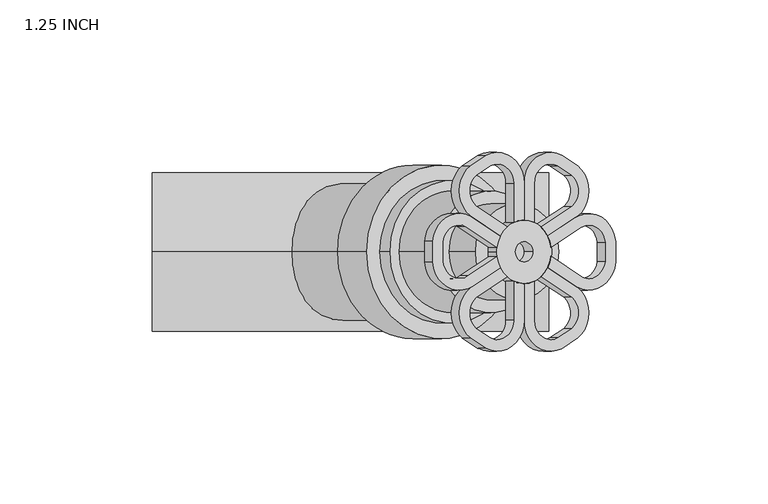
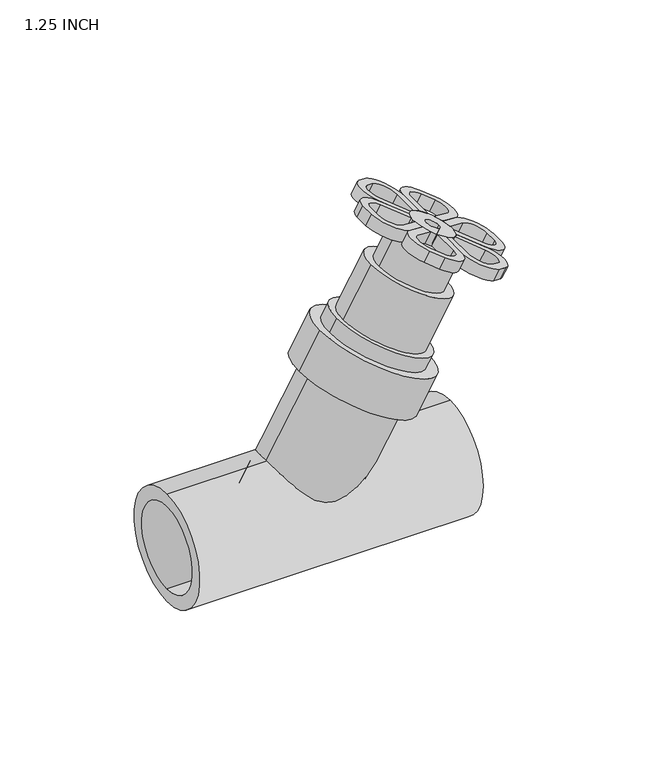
"""IFC4 building model written with IfcOpenShell, lengths in millimetres: valve geometry, Aquatherm - Inclined Check Valve without drain : 1.25 INCH."""

from ifc_helpers import new_model, si_unit, point, frame, frame_2d, origin, origin_2d, place, context, project, spatial, polyline, circle_curve, trimmed, segment, composite_curve, outline, extrude, source, transform, mapped, element, save
from ifc_brep_helpers import plane_surface, cylinder_surface, revolved_surface, advanced_brep


def valve_1_25_inch_3d7ded2d(model_context):
    return source(origin(), model_context, "Body", "SolidModel", [
        advanced_brep(
        [(131.4312275, 10.5951948, 100.0426553), (144.564244, 2.812243, 92.4603047), (144.5843625, -4.0695455, 92.4486893), (132.2186595, -12.3087434, 99.5880312), (122.4292614, -5.7824779, 105.2399429), (123.5225816, -2.111949, 104.6087142), (133.7085611, -8.902602, 98.7278362), (141.2862492, -3.6900946, 94.3528559), (141.3022835, 2.4387005, 94.3435985), (133.0810059, 7.295638, 99.0901553), (123.5099846, 0.9149571, 104.6159871), (122.4016894, 4.5755028, 105.2558616), (134.0982275, 10.5951948, 104.6620349), (125.0686894, 4.5755028, 109.8752411), (126.1769846, 0.9149571, 109.2353666), (135.7480059, 7.295638, 103.7095349), (143.9477944, 2.4362397, 98.9753847), (143.968063, -3.691799, 98.9636826), (136.3755611, -8.902602, 103.3472157), (126.1895816, -2.111949, 109.2280937), (125.0962614, -5.7824779, 109.8593224), (134.8856595, -12.3087434, 104.2074107), (147.2365487, -4.0678412, 97.0766215), (147.2527331, 2.8147039, 97.0672775)],
        [
            (0, 1, circle_curve(frame((135.8231929, 1.8112639, 97.5069529), z_axis=(-0.49999999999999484, 0.0, -0.8660254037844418), x_axis=(0.4330127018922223, -0.866025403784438, -0.24999999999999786)), 10.1428098)),
            (1, 2, circle_curve(frame((114.5968937, -0.6194603, 109.7619625), z_axis=(-0.49999999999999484, 0.0, -0.8660254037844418), x_axis=(0.4330127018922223, -0.866025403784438, -0.24999999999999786)), 34.798)),
            (2, 3, circle_curve(frame((135.8288972, -3.0622214, 97.5036596), z_axis=(-0.49999999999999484, 0.0, -0.8660254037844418), x_axis=(0.4330127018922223, -0.866025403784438, -0.24999999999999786)), 10.1428098)),
            (3, 4),
            (4, 5, circle_curve(frame((114.5968937, -0.6194603, 109.7619625), z_axis=(0.49999999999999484, 0.0, 0.8660254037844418), x_axis=(0.41622412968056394, 0.8769321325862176, -0.2403071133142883)), 10.414)),
            (5, 6),
            (6, 7, circle_curve(frame((135.8288972, -3.0622214, 97.5036596), z_axis=(0.49999999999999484, 0.0, 0.8660254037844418), x_axis=(0.4330127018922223, -0.866025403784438, -0.24999999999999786)), 6.3328098)),
            (7, 8, circle_curve(frame((114.5968937, -0.6194603, 109.7619625), z_axis=(0.49999999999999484, 0.0, 0.8660254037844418), x_axis=(0.4330127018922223, -0.866025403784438, -0.24999999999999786)), 30.988)),
            (8, 9, circle_curve(frame((135.8231929, 1.8112639, 97.5069529), z_axis=(0.49999999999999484, 0.0, 0.8660254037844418), x_axis=(0.4330127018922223, -0.866025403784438, -0.24999999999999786)), 6.3328098)),
            (9, 10),
            (10, 11, circle_curve(frame((114.5911894, -0.6314972, 109.7652558), z_axis=(0.49999999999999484, 0.0, 0.8660254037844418), x_axis=(0.4330127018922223, -0.866025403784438, -0.24999999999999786)), 10.414)),
            (11, 0),
            (12, 13),
            (13, 14, circle_curve(frame((117.2581894, -0.6314972, 114.3846353), z_axis=(-0.49999999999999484, 0.0, -0.8660254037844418), x_axis=(0.4330127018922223, -0.866025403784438, -0.24999999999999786)), 10.414)),
            (14, 15),
            (15, 16, circle_curve(frame((138.4901929, 1.8112639, 102.1263324), z_axis=(-0.49999999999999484, 0.0, -0.8660254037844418), x_axis=(0.4330127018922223, -0.866025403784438, -0.24999999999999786)), 6.3328098)),
            (16, 17, circle_curve(frame((117.2638937, -0.6194603, 114.381342), z_axis=(-0.49999999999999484, 0.0, -0.8660254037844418), x_axis=(0.4330127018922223, -0.866025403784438, -0.24999999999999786)), 30.988)),
            (17, 18, circle_curve(frame((138.4958972, -3.0622214, 102.1230391), z_axis=(-0.49999999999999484, 0.0, -0.8660254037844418), x_axis=(0.4330127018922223, -0.866025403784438, -0.24999999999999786)), 6.3328098)),
            (18, 19),
            (19, 20, circle_curve(frame((117.2638937, -0.6194603, 114.381342), z_axis=(-0.49999999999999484, 0.0, -0.8660254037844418), x_axis=(0.41622412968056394, 0.8769321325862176, -0.2403071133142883)), 10.414)),
            (20, 21),
            (21, 22, circle_curve(frame((138.4958972, -3.0622214, 102.1230391), z_axis=(0.49999999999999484, 0.0, 0.8660254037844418), x_axis=(0.4330127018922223, -0.866025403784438, -0.24999999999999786)), 10.1428098)),
            (22, 23, circle_curve(frame((117.2638937, -0.6194603, 114.381342), z_axis=(0.49999999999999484, 0.0, 0.8660254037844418), x_axis=(0.4330127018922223, -0.866025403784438, -0.24999999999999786)), 34.798)),
            (23, 12, circle_curve(frame((138.4901929, 1.8112639, 102.1263324), z_axis=(0.49999999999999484, 0.0, 0.8660254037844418), x_axis=(0.4330127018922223, -0.866025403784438, -0.24999999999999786)), 10.1428098)),
            (11, 13),
            (12, 0),
            (10, 14),
            (9, 15),
            (8, 16),
            (7, 17),
            (6, 18),
            (5, 19),
            (4, 20),
            (3, 21),
            (2, 22),
            (1, 23),
        ],
        [
            plane_surface(frame((140.2151584, -6.9726671, 94.9712505), z_axis=(-0.4999999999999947, 0.0, -0.8660254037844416), x_axis=(-0.7500000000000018, -0.5000000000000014, 0.43301270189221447))),
            plane_surface(frame((142.8821584, -6.9726671, 99.59063), z_axis=(0.4999999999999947, 0.0, 0.8660254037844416), x_axis=(0.7500000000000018, 0.5000000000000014, -0.43301270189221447))),
            plane_surface(frame((122.4016894, 4.5755028, 105.2558616), z_axis=(-0.43301270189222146, 0.8660254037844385, 0.24999999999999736), x_axis=(0.49999999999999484, 0.0, 0.8660254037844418))),
            revolved_surface(polyline([(121.76758372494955, -9.650285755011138, 111.78113538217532), (119.10058367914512, -9.650285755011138, 107.16175579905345)]), (117.2581894, -0.6314972, 114.3846353), (0.49999999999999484, 0.0, 0.8660254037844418)),
            plane_surface(frame((133.0810059, 7.295638, 99.0901553), z_axis=(0.43301270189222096, -0.8660254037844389, -0.24999999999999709), x_axis=(0.49999999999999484, 0.0, 0.8660254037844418))),
            revolved_surface(polyline([(141.23238002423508, -3.6731102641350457, 100.5431300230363), (138.56537998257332, -3.6731102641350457, 95.92375044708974)]), (138.4901929, 1.8112639, 102.1263324), (0.49999999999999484, 0.0, 0.8660254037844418)),
            revolved_surface(polyline([(130.68209130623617, -27.455855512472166, 106.63434200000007), (128.01509130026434, -27.455855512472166, 102.0149624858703)]), (117.2638937, -0.6194603, 114.381342), (0.49999999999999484, 0.0, 0.8660254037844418)),
            revolved_surface(polyline([(141.23808428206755, -8.546595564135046, 100.53983665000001), (138.57108426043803, -8.546595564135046, 95.92045710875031)]), (138.4958972, -3.0622214, 102.1230391), (0.49999999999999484, 0.0, 0.8660254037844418)),
            plane_surface(frame((123.5225816, -2.111949, 104.6087142), z_axis=(0.4330127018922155, 0.8660254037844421, -0.2499999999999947), x_axis=(0.49999999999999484, 0.0, 0.8660254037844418))),
            revolved_surface(polyline([(121.59845179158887, 8.51291092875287, 111.87878373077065), (118.93145178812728, 8.51291092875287, 107.25940422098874)]), (117.2638937, -0.6194603, 114.381342), (0.49999999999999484, 0.0, 0.8660254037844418)),
            plane_surface(frame((132.2186595, -12.3087434, 99.5880312), z_axis=(-0.43301270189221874, -0.8660254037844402, 0.24999999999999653), x_axis=(0.49999999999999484, 0.0, 0.8660254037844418))),
            cylinder_surface(frame((138.4958972, -3.0622214, 102.1230391), z_axis=(-0.49999999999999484, 0.0, -0.8660254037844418), x_axis=(0.4330127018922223, -0.866025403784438, -0.24999999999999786)), 10.1428098),
            cylinder_surface(frame((117.2638937, -0.6194603, 114.381342), z_axis=(-0.49999999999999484, 0.0, -0.8660254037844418), x_axis=(0.4330127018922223, -0.866025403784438, -0.24999999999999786)), 34.798),
            cylinder_surface(frame((138.4901929, 1.8112639, 102.1263324), z_axis=(-0.49999999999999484, 0.0, -0.8660254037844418), x_axis=(0.4330127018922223, -0.866025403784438, -0.24999999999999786)), 10.1428098),
        ],
        [
            (0, [[1, 2, 3, 4, 5, 6, 7, 8, 9, 10, 11, 12]]),
            (1, [[13, 14, 15, 16, 17, 18, 19, 20, 21, 22, 23, 24]]),
            (2, [[-12, 25, -13, 26]]),
            (3, [[-11, 27, -14, -25]]),
            (4, [[-10, 28, -15, -27]]),
            (5, [[-9, 29, -16, -28]]),
            (6, [[-8, 30, -17, -29]]),
            (7, [[-7, 31, -18, -30]]),
            (8, [[-6, 32, -19, -31]]),
            (9, [[-5, 33, -20, -32]]),
            (10, [[-4, 34, -21, -33]]),
            (11, [[-3, 35, -22, -34]]),
            (12, [[-2, 36, -23, -35]]),
            (13, [[-1, -26, -24, -36]]),
        ],
    ),
        advanced_brep(
        [(97.7511514, -11.8581892, 119.4878563), (84.6181349, -4.0752375, 127.0702069), (84.5980164, 2.8065511, 127.0818224), (96.9637194, 11.0457489, 119.9424804), (106.7531175, 4.5194835, 114.2905688), (105.6597973, 0.8489546, 114.9217975), (95.4738178, 7.6396076, 120.8026755), (87.8961297, 2.4271002, 125.1776558), (87.8800953, -3.7016949, 125.1869132), (96.101373, -8.5586324, 120.4403563), (105.6723943, -2.1779516, 114.9145246), (106.7806894, -5.8384972, 114.2746501), (100.4181514, -11.8581892, 124.1072358), (109.4476894, -5.8384972, 118.8940296), (108.3393943, -2.1779516, 119.5339041), (98.768373, -8.5586324, 125.0597358), (90.5685845, -3.6992341, 129.7938859), (90.5483159, 2.4288045, 129.805588), (98.1408178, 7.6396076, 125.422055), (108.3267973, 0.8489546, 119.541177), (109.4201175, 4.5194835, 118.9099483), (99.6307194, 11.0457489, 124.5618599), (87.2798302, 2.8048467, 131.6926491), (87.2636458, -4.0776983, 131.7019932)],
        [
            (0, 1, circle_curve(frame((93.359186, -3.0742583, 122.0235588), z_axis=(-0.49999999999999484, 0.0, -0.8660254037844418), x_axis=(-0.4330127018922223, 0.866025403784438, 0.24999999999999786)), 10.1428098)),
            (1, 2, circle_curve(frame((114.5854852, -0.6435341, 109.7685492), z_axis=(-0.49999999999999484, 0.0, -0.8660254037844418), x_axis=(-0.4330127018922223, 0.866025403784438, 0.24999999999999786)), 34.798)),
            (2, 3, circle_curve(frame((93.3534817, 1.7992269, 122.0268521), z_axis=(-0.49999999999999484, 0.0, -0.8660254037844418), x_axis=(-0.4330127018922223, 0.866025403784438, 0.24999999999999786)), 10.1428098)),
            (3, 4),
            (4, 5, circle_curve(frame((114.5854852, -0.6435341, 109.7685492), z_axis=(0.49999999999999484, 0.0, 0.8660254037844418), x_axis=(-0.41622412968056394, -0.8769321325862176, 0.2403071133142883)), 10.414)),
            (5, 6),
            (6, 7, circle_curve(frame((93.3534817, 1.7992269, 122.0268521), z_axis=(0.49999999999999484, 0.0, 0.8660254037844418), x_axis=(-0.4330127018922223, 0.866025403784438, 0.24999999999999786)), 6.3328098)),
            (7, 8, circle_curve(frame((114.5854852, -0.6435341, 109.7685492), z_axis=(0.49999999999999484, 0.0, 0.8660254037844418), x_axis=(-0.4330127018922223, 0.866025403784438, 0.24999999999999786)), 30.988)),
            (8, 9, circle_curve(frame((93.359186, -3.0742583, 122.0235588), z_axis=(0.49999999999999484, 0.0, 0.8660254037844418), x_axis=(-0.4330127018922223, 0.866025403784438, 0.24999999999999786)), 6.3328098)),
            (9, 10),
            (10, 11, circle_curve(frame((114.5911894, -0.6314972, 109.7652558), z_axis=(0.49999999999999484, 0.0, 0.8660254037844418), x_axis=(-0.4330127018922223, 0.866025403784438, 0.24999999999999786)), 10.414)),
            (11, 0),
            (12, 13),
            (13, 14, circle_curve(frame((117.2581894, -0.6314972, 114.3846353), z_axis=(-0.49999999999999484, 0.0, -0.8660254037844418), x_axis=(-0.4330127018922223, 0.866025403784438, 0.24999999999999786)), 10.414)),
            (14, 15),
            (15, 16, circle_curve(frame((96.026186, -3.0742583, 126.6429383), z_axis=(-0.49999999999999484, 0.0, -0.8660254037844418), x_axis=(-0.4330127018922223, 0.866025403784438, 0.24999999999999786)), 6.3328098)),
            (16, 17, circle_curve(frame((117.2524852, -0.6435341, 114.3879287), z_axis=(-0.49999999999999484, 0.0, -0.8660254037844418), x_axis=(-0.4330127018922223, 0.866025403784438, 0.24999999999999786)), 30.988)),
            (17, 18, circle_curve(frame((96.0204817, 1.7992269, 126.6462316), z_axis=(-0.49999999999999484, 0.0, -0.8660254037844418), x_axis=(-0.4330127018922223, 0.866025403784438, 0.24999999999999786)), 6.3328098)),
            (18, 19),
            (19, 20, circle_curve(frame((117.2524852, -0.6435341, 114.3879287), z_axis=(-0.49999999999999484, 0.0, -0.8660254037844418), x_axis=(-0.41622412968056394, -0.8769321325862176, 0.2403071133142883)), 10.414)),
            (20, 21),
            (21, 22, circle_curve(frame((96.0204817, 1.7992269, 126.6462316), z_axis=(0.49999999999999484, 0.0, 0.8660254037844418), x_axis=(-0.4330127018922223, 0.866025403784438, 0.24999999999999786)), 10.1428098)),
            (22, 23, circle_curve(frame((117.2524852, -0.6435341, 114.3879287), z_axis=(0.49999999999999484, 0.0, 0.8660254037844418), x_axis=(-0.4330127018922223, 0.866025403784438, 0.24999999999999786)), 34.798)),
            (23, 12, circle_curve(frame((96.026186, -3.0742583, 126.6429383), z_axis=(0.49999999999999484, 0.0, 0.8660254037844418), x_axis=(-0.4330127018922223, 0.866025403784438, 0.24999999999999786)), 10.1428098)),
            (0, 12),
            (23, 1),
            (22, 2),
            (21, 3),
            (20, 4),
            (19, 5),
            (18, 6),
            (17, 7),
            (16, 8),
            (15, 9),
            (14, 10),
            (13, 11),
        ],
        [
            plane_surface(frame((88.9672205, 5.7096726, 124.5592612), z_axis=(-0.4999999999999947, 0.0, -0.8660254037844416), x_axis=(0.7500000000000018, 0.5000000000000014, -0.43301270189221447))),
            plane_surface(frame((91.6342205, 5.7096726, 129.1786407), z_axis=(0.4999999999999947, 0.0, 0.8660254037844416), x_axis=(-0.7500000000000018, -0.5000000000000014, 0.43301270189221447))),
            cylinder_surface(frame((96.026186, -3.0742583, 126.6429383), z_axis=(-0.49999999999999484, 0.0, -0.8660254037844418), x_axis=(-0.4330127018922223, 0.866025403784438, 0.24999999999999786)), 10.1428098),
            cylinder_surface(frame((117.2524852, -0.6435341, 114.3879287), z_axis=(-0.49999999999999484, 0.0, -0.8660254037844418), x_axis=(-0.4330127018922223, 0.866025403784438, 0.24999999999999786)), 34.798),
            cylinder_surface(frame((96.0204817, 1.7992269, 126.6462316), z_axis=(-0.49999999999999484, 0.0, -0.8660254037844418), x_axis=(-0.4330127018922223, 0.866025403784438, 0.24999999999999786)), 10.1428098),
            plane_surface(frame((96.9637194, 11.0457489, 119.9424804), z_axis=(0.43301270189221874, 0.8660254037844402, -0.24999999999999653), x_axis=(0.49999999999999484, 0.0, 0.8660254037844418))),
            revolved_surface(polyline([(112.9179271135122, -9.77590532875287, 116.8904869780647), (110.25092711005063, -9.77590532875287, 112.2711074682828)]), (117.2524852, -0.6435341, 114.3879287), (0.49999999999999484, 0.0, 0.8660254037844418)),
            plane_surface(frame((105.6597973, 0.8489546, 114.9217975), z_axis=(-0.43301270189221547, -0.8660254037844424, 0.24999999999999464), x_axis=(0.49999999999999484, 0.0, 0.8660254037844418))),
            revolved_surface(polyline([(93.27829462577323, 7.283601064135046, 128.22943406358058), (90.61129461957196, 7.283601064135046, 123.61005454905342)]), (96.0204817, 1.7992269, 126.6462316), (0.49999999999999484, 0.0, 0.8660254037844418)),
            revolved_surface(polyline([(103.8342875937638, 26.192861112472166, 122.13492869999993), (101.16728757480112, 26.192861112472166, 117.51554916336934)]), (117.2524852, -0.6435341, 114.3879287), (0.49999999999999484, 0.0, 0.8660254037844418)),
            revolved_surface(polyline([(93.28399891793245, 2.410115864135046, 128.22614074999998), (90.61699887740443, 2.410115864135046, 123.60676117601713)]), (96.026186, -3.0742583, 126.6429383), (0.49999999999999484, 0.0, 0.8660254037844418)),
            plane_surface(frame((96.101373, -8.5586324, 120.4403563), z_axis=(-0.43301270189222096, 0.8660254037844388, 0.24999999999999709), x_axis=(0.49999999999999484, 0.0, 0.8660254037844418))),
            revolved_surface(polyline([(112.74879514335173, 8.387291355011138, 116.98813533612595), (110.0817951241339, 8.387291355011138, 112.36875579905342)]), (117.2581894, -0.6314972, 114.3846353), (0.49999999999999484, 0.0, 0.8660254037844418)),
            plane_surface(frame((106.7806894, -5.8384972, 114.2746501), z_axis=(0.43301270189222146, -0.8660254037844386, -0.24999999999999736), x_axis=(0.49999999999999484, 0.0, 0.8660254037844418))),
        ],
        [
            (0, [[1, 2, 3, 4, 5, 6, 7, 8, 9, 10, 11, 12]]),
            (1, [[13, 14, 15, 16, 17, 18, 19, 20, 21, 22, 23, 24]]),
            (2, [[-1, 25, -24, 26]]),
            (3, [[-2, -26, -23, 27]]),
            (4, [[-3, -27, -22, 28]]),
            (5, [[-4, -28, -21, 29]]),
            (6, [[-5, -29, -20, 30]]),
            (7, [[-6, -30, -19, 31]]),
            (8, [[-7, -31, -18, 32]]),
            (9, [[-8, -32, -17, 33]]),
            (10, [[-9, -33, -16, 34]]),
            (11, [[-10, -34, -15, 35]]),
            (12, [[-11, -35, -14, 36]]),
            (13, [[-12, -36, -13, -25]]),
        ],
    ),
        advanced_brep(
        [(114.5911894, 21.8218868, 109.7652558), (114.5911894, 9.7825028, 109.7652558), (111.2916327, 9.0605251, 111.6702558), (111.2916327, 21.8218868, 111.6702558), (103.5471896, 27.5919762, 116.1415121), (98.9410264, 24.5482255, 118.8008817), (98.829175, 14.350322, 118.8654591), (109.0151545, 7.559669, 112.9845811), (106.8089179, 4.6310844, 114.2583524), (97.0195198, 11.1573498, 119.910264), (97.0247518, 27.6286901, 119.9072433), (102.1785684, 31.086147, 116.9316859), (117.2581894, 21.8218868, 114.3846353), (104.8544674, 31.0634274, 121.5459276), (99.6830667, 27.6426517, 124.5316372), (99.6865198, 11.1573498, 124.5296435), (109.4759179, 4.6310844, 118.8777319), (111.6821545, 7.559669, 117.6039606), (101.496175, 14.350322, 123.4848386), (101.6167115, 24.5342638, 123.4152468), (106.2052907, 27.6146957, 120.7660294), (113.9586327, 21.8218868, 116.2896353), (113.9586327, 9.0605251, 116.2896353), (117.2581894, 9.7825028, 114.3846353)],
        [
            (0, 1),
            (1, 2, circle_curve(frame((114.5911894, -0.6314972, 109.7652558), z_axis=(0.49999999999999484, 0.0, 0.8660254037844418), x_axis=(-0.8660254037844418, 0.0, 0.49999999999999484)), 10.414)),
            (2, 3),
            (3, 4, circle_curve(frame((105.8072585, 21.8218868, 114.8366607), z_axis=(0.49999999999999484, 0.0, 0.8660254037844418), x_axis=(-0.8660254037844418, 0.0, 0.49999999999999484)), 6.3328098)),
            (4, 5, circle_curve(frame((114.597365, -0.6197745, 109.7616904), z_axis=(0.49999999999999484, 0.0, 0.8660254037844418), x_axis=(-0.8660254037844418, 0.0, 0.49999999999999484)), 30.988)),
            (5, 6, circle_curve(frame((102.1492925, 19.3908484, 116.9485884), z_axis=(0.49999999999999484, 0.0, 0.8660254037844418), x_axis=(-0.8660254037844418, 0.0, 0.49999999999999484)), 6.3328098)),
            (6, 7),
            (7, 8, circle_curve(frame((114.597365, -0.6197745, 109.7616904), z_axis=(0.4999999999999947, 0.0, 0.8660254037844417), x_axis=(0.4495870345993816, 0.8546901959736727, -0.2595691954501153)), 10.414)),
            (8, 9),
            (9, 10, circle_curve(frame((102.1492925, 19.3908484, 116.9485884), z_axis=(-0.49999999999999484, 0.0, -0.8660254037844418), x_axis=(-0.8660254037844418, 0.0, 0.49999999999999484)), 10.1428098)),
            (10, 11, circle_curve(frame((114.597365, -0.6197745, 109.7616904), z_axis=(-0.49999999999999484, 0.0, -0.8660254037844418), x_axis=(-0.8660254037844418, 0.0, 0.49999999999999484)), 34.798)),
            (11, 0, circle_curve(frame((105.8072585, 21.8218868, 114.8366607), z_axis=(-0.49999999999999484, 0.0, -0.8660254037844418), x_axis=(-0.8660254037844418, 0.0, 0.49999999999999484)), 10.1428098)),
            (12, 13, circle_curve(frame((108.4742585, 21.8218868, 119.4560402), z_axis=(0.49999999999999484, 0.0, 0.8660254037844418), x_axis=(-0.8660254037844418, 0.0, 0.49999999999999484)), 10.1428098)),
            (13, 14, circle_curve(frame((117.264365, -0.6197745, 114.3810699), z_axis=(0.49999999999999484, 0.0, 0.8660254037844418), x_axis=(-0.8660254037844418, 0.0, 0.49999999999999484)), 34.798)),
            (14, 15, circle_curve(frame((104.8162925, 19.3908484, 121.5679679), z_axis=(0.49999999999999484, 0.0, 0.8660254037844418), x_axis=(-0.8660254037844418, 0.0, 0.49999999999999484)), 10.1428098)),
            (15, 16),
            (16, 17, circle_curve(frame((117.264365, -0.6197745, 114.3810699), z_axis=(-0.4999999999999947, 0.0, -0.8660254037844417), x_axis=(0.4495870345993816, 0.8546901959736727, -0.2595691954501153)), 10.414)),
            (17, 18),
            (18, 19, circle_curve(frame((104.8162925, 19.3908484, 121.5679679), z_axis=(-0.49999999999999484, 0.0, -0.8660254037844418), x_axis=(-0.8660254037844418, 0.0, 0.49999999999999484)), 6.3328098)),
            (19, 20, circle_curve(frame((117.264365, -0.6197745, 114.3810699), z_axis=(-0.49999999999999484, 0.0, -0.8660254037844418), x_axis=(-0.8660254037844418, 0.0, 0.49999999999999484)), 30.988)),
            (20, 21, circle_curve(frame((108.4742585, 21.8218868, 119.4560402), z_axis=(-0.49999999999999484, 0.0, -0.8660254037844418), x_axis=(-0.8660254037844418, 0.0, 0.49999999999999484)), 6.3328098)),
            (21, 22),
            (22, 23, circle_curve(frame((117.2581894, -0.6314972, 114.3846353), z_axis=(-0.49999999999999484, 0.0, -0.8660254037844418), x_axis=(-0.8660254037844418, 0.0, 0.49999999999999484)), 10.414)),
            (23, 12),
            (11, 13),
            (12, 0),
            (10, 14),
            (9, 15),
            (8, 16),
            (7, 17),
            (6, 18),
            (5, 19),
            (4, 20),
            (3, 21),
            (2, 22),
            (1, 23),
        ],
        [
            plane_surface(frame((114.5911894, 7.6235028, 109.7652558), z_axis=(-0.49999999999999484, 0.0, -0.8660254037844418), x_axis=(0.0, -1.0, 0.0))),
            plane_surface(frame((117.2581894, 7.6235028, 114.3846353), z_axis=(0.49999999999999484, 0.0, 0.8660254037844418), x_axis=(0.0, 1.0, 0.0))),
            cylinder_surface(frame((108.4742585, 21.8218868, 119.4560402), z_axis=(-0.49999999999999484, 0.0, -0.8660254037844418), x_axis=(-0.8660254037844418, 0.0, 0.49999999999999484)), 10.1428098),
            cylinder_surface(frame((117.264365, -0.6197745, 114.3810699), z_axis=(-0.49999999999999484, 0.0, -0.8660254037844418), x_axis=(-0.8660254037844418, 0.0, 0.49999999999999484)), 34.798),
            cylinder_surface(frame((104.8162925, 19.3908484, 121.5679679), z_axis=(-0.49999999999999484, 0.0, -0.8660254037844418), x_axis=(-0.8660254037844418, 0.0, 0.49999999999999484)), 10.1428098),
            plane_surface(frame((106.8089179, 4.6310844, 114.2583524), z_axis=(-0.433012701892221, -0.8660254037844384, 0.24999999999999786), x_axis=(0.49999999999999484, 0.0, 0.8660254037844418))),
            revolved_surface(polyline([(121.94636437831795, 8.280969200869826, 111.6779162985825), (119.27936436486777, 8.280969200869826, 107.05853677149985)]), (117.264365, -0.6197745, 114.3810699), (0.49999999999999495, 0.0, 0.866025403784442)),
            plane_surface(frame((98.829175, 14.350322, 118.8654591), z_axis=(0.4330127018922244, 0.8660254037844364, -0.2499999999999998), x_axis=(0.49999999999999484, 0.0, 0.8660254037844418))),
            revolved_surface(polyline([(99.33191833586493, 19.3908484, 124.73437279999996), (96.66491832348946, 19.3908484, 120.11499327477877)]), (104.8162925, 19.3908484, 121.5679679), (0.49999999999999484, 0.0, 0.8660254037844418)),
            revolved_surface(polyline([(90.42796978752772, -0.6197745, 129.87506989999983), (87.76096977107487, -0.6197745, 125.2556903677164)]), (117.264365, -0.6197745, 114.3810699), (0.49999999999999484, 0.0, 0.8660254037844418)),
            revolved_surface(polyline([(102.98988434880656, 21.8218868, 122.62244512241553), (100.32288433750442, 21.8218868, 118.00306559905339)]), (108.4742585, 21.8218868, 119.4560402), (0.49999999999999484, 0.0, 0.8660254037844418)),
            plane_surface(frame((111.2916327, 9.0605251, 111.6702558), z_axis=(-0.8660254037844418, 0.0, 0.49999999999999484), x_axis=(0.49999999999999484, 0.0, 0.8660254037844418))),
            revolved_surface(polyline([(108.23940086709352, -0.6314972, 119.5916353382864), (105.57240084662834, -0.6314972, 114.97225579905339)]), (117.2581894, -0.6314972, 114.3846353), (0.49999999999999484, 0.0, 0.8660254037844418)),
            plane_surface(frame((114.5911894, 21.8218868, 109.7652558), z_axis=(0.8660254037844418, 0.0, -0.49999999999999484), x_axis=(0.49999999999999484, 0.0, 0.8660254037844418))),
        ],
        [
            (0, [[1, 2, 3, 4, 5, 6, 7, 8, 9, 10, 11, 12]]),
            (1, [[13, 14, 15, 16, 17, 18, 19, 20, 21, 22, 23, 24]]),
            (2, [[-12, 25, -13, 26]]),
            (3, [[-11, 27, -14, -25]]),
            (4, [[-10, 28, -15, -27]]),
            (5, [[-9, 29, -16, -28]]),
            (6, [[-8, 30, -17, -29]]),
            (7, [[-7, 31, -18, -30]]),
            (8, [[-6, 32, -19, -31]]),
            (9, [[-5, 33, -20, -32]]),
            (10, [[-4, 34, -21, -33]]),
            (11, [[-3, 35, -22, -34]]),
            (12, [[-2, 36, -23, -35]]),
            (13, [[-1, -26, -24, -36]]),
        ],
    ),
        advanced_brep(
        [(114.5911894, 21.8218868, 109.7652558), (126.9949115, 31.0634274, 102.6039636), (132.1663122, 27.6426517, 99.618254), (132.1628591, 11.1573498, 99.6202476), (122.3734609, 4.6310844, 105.2721593), (120.1672244, 7.559669, 106.5459305), (130.3532039, 14.350322, 100.6650525), (130.2326674, 24.5342638, 100.7346443), (125.6440882, 27.6146957, 103.3838618), (117.8907462, 21.8218868, 107.8602558), (117.8907462, 9.0605251, 107.8602558), (114.5911894, 9.7825028, 109.7652558), (117.2581894, 21.8218868, 114.3846353), (117.2581894, 9.7825028, 114.3846353), (120.5577462, 9.0605251, 112.4796353), (120.5577462, 21.8218868, 112.4796353), (128.3021892, 27.5919762, 108.0083791), (132.9083525, 24.5482255, 105.3490095), (133.0202039, 14.350322, 105.2844321), (122.8342244, 7.559669, 111.1653101), (125.0404609, 4.6310844, 109.8915388), (134.8298591, 11.1573498, 104.2396271), (134.824627, 27.6286901, 104.2426479), (129.6708105, 31.086147, 107.2182052)],
        [
            (0, 1, circle_curve(frame((123.3751204, 21.8218868, 104.6938509), z_axis=(-0.49999999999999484, 0.0, -0.8660254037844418), x_axis=(0.8660254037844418, 0.0, -0.49999999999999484)), 10.1428098)),
            (1, 2, circle_curve(frame((114.5850139, -0.6197745, 109.7688213), z_axis=(-0.49999999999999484, 0.0, -0.8660254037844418), x_axis=(0.8660254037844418, 0.0, -0.49999999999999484)), 34.798)),
            (2, 3, circle_curve(frame((127.0330864, 19.3908484, 102.5819233), z_axis=(-0.49999999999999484, 0.0, -0.8660254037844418), x_axis=(0.8660254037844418, 0.0, -0.49999999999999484)), 10.1428098)),
            (3, 4),
            (4, 5, circle_curve(frame((114.5850139, -0.6197745, 109.7688213), z_axis=(0.4999999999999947, 0.0, 0.8660254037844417), x_axis=(-0.4495870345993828, 0.854690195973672, 0.2595691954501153)), 10.414)),
            (5, 6),
            (6, 7, circle_curve(frame((127.0330864, 19.3908484, 102.5819233), z_axis=(0.49999999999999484, 0.0, 0.8660254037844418), x_axis=(0.8660254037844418, 0.0, -0.49999999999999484)), 6.3328098)),
            (7, 8, circle_curve(frame((114.5850139, -0.6197745, 109.7688213), z_axis=(0.49999999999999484, 0.0, 0.8660254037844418), x_axis=(0.8660254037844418, 0.0, -0.49999999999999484)), 30.988)),
            (8, 9, circle_curve(frame((123.3751204, 21.8218868, 104.6938509), z_axis=(0.49999999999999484, 0.0, 0.8660254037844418), x_axis=(0.8660254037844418, 0.0, -0.49999999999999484)), 6.3328098)),
            (9, 10),
            (10, 11, circle_curve(frame((114.5911894, -0.6314972, 109.7652558), z_axis=(0.49999999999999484, 0.0, 0.8660254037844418), x_axis=(0.8660254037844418, 0.0, -0.49999999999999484)), 10.414)),
            (11, 0),
            (12, 13),
            (13, 14, circle_curve(frame((117.2581894, -0.6314972, 114.3846353), z_axis=(-0.49999999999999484, 0.0, -0.8660254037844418), x_axis=(0.8660254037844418, 0.0, -0.49999999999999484)), 10.414)),
            (14, 15),
            (15, 16, circle_curve(frame((126.0421204, 21.8218868, 109.3132304), z_axis=(-0.49999999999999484, 0.0, -0.8660254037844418), x_axis=(0.8660254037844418, 0.0, -0.49999999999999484)), 6.3328098)),
            (16, 17, circle_curve(frame((117.2520139, -0.6197745, 114.3882008), z_axis=(-0.49999999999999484, 0.0, -0.8660254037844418), x_axis=(0.8660254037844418, 0.0, -0.49999999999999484)), 30.988)),
            (17, 18, circle_curve(frame((129.7000864, 19.3908484, 107.2013028), z_axis=(-0.49999999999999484, 0.0, -0.8660254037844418), x_axis=(0.8660254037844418, 0.0, -0.49999999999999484)), 6.3328098)),
            (18, 19),
            (19, 20, circle_curve(frame((117.2520139, -0.6197745, 114.3882008), z_axis=(-0.4999999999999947, 0.0, -0.8660254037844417), x_axis=(-0.4495870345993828, 0.854690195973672, 0.2595691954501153)), 10.414)),
            (20, 21),
            (21, 22, circle_curve(frame((129.7000864, 19.3908484, 107.2013028), z_axis=(0.49999999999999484, 0.0, 0.8660254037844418), x_axis=(0.8660254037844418, 0.0, -0.49999999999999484)), 10.1428098)),
            (22, 23, circle_curve(frame((117.2520139, -0.6197745, 114.3882008), z_axis=(0.49999999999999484, 0.0, 0.8660254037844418), x_axis=(0.8660254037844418, 0.0, -0.49999999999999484)), 34.798)),
            (23, 12, circle_curve(frame((126.0421204, 21.8218868, 109.3132304), z_axis=(0.49999999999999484, 0.0, 0.8660254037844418), x_axis=(0.8660254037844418, 0.0, -0.49999999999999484)), 10.1428098)),
            (11, 13),
            (12, 0),
            (10, 14),
            (9, 15),
            (8, 16),
            (7, 17),
            (6, 18),
            (5, 19),
            (4, 20),
            (3, 21),
            (2, 22),
            (1, 23),
        ],
        [
            plane_surface(frame((132.1590513, 21.8218868, 99.6224461), z_axis=(-0.49999999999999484, 0.0, -0.8660254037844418), x_axis=(0.0, -1.0, 0.0))),
            plane_surface(frame((134.8260513, 21.8218868, 104.2418256), z_axis=(0.49999999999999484, 0.0, 0.8660254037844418), x_axis=(0.0, 1.0, 0.0))),
            plane_surface(frame((114.5911894, 9.7825028, 109.7652558), z_axis=(-0.8660254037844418, 0.0, 0.49999999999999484), x_axis=(0.49999999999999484, 0.0, 0.8660254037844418))),
            revolved_surface(polyline([(126.27697795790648, -0.6314972, 109.17763530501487), (123.60997795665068, -0.6314972, 104.55825579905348)]), (117.2581894, -0.6314972, 114.3846353), (0.49999999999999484, 0.0, 0.8660254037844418)),
            plane_surface(frame((117.8907462, 21.8218868, 107.8602558), z_axis=(0.8660254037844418, 0.0, -0.49999999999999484), x_axis=(0.49999999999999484, 0.0, 0.8660254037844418))),
            revolved_surface(polyline([(131.5264945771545, 21.8218868, 106.14682552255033), (128.85949455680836, 21.8218868, 101.52744598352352)]), (126.0421204, 21.8218868, 109.3132304), (0.49999999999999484, 0.0, 0.8660254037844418)),
            revolved_surface(polyline([(144.08840911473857, -0.6197745, 98.89420080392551), (141.42140909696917, -0.6197745, 94.27482126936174)]), (117.2520139, -0.6197745, 114.3882008), (0.49999999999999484, 0.0, 0.8660254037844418)),
            revolved_surface(polyline([(135.18446057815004, 19.3908484, 104.03489792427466), (132.51746053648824, 19.3908484, 99.41551834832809)]), (129.7000864, 19.3908484, 107.2013028), (0.49999999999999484, 0.0, 0.8660254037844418)),
            plane_surface(frame((120.1672244, 7.559669, 106.5459305), z_axis=(-0.4330127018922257, 0.8660254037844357, 0.24999999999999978), x_axis=(0.49999999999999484, 0.0, 0.8660254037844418))),
            revolved_surface(polyline([(112.5700145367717, 8.28096920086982, 117.09135442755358), (109.90301449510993, 8.28096920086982, 112.47197485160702)]), (117.2520139, -0.6197745, 114.3882008), (0.49999999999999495, 0.0, 0.866025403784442)),
            plane_surface(frame((132.1628591, 11.1573498, 99.6202476), z_axis=(0.4330127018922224, -0.8660254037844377, -0.24999999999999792), x_axis=(0.49999999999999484, 0.0, 0.8660254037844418))),
            cylinder_surface(frame((129.7000864, 19.3908484, 107.2013028), z_axis=(-0.49999999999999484, 0.0, -0.8660254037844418), x_axis=(0.8660254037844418, 0.0, -0.49999999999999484)), 10.1428098),
            cylinder_surface(frame((117.2520139, -0.6197745, 114.3882008), z_axis=(-0.49999999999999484, 0.0, -0.8660254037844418), x_axis=(0.8660254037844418, 0.0, -0.49999999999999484)), 34.798),
            cylinder_surface(frame((126.0421204, 21.8218868, 109.3132304), z_axis=(-0.49999999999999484, 0.0, -0.8660254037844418), x_axis=(0.8660254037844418, 0.0, -0.49999999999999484)), 10.1428098),
        ],
        [
            (0, [[1, 2, 3, 4, 5, 6, 7, 8, 9, 10, 11, 12]]),
            (1, [[13, 14, 15, 16, 17, 18, 19, 20, 21, 22, 23, 24]]),
            (2, [[-12, 25, -13, 26]]),
            (3, [[-11, 27, -14, -25]]),
            (4, [[-10, 28, -15, -27]]),
            (5, [[-9, 29, -16, -28]]),
            (6, [[-8, 30, -17, -29]]),
            (7, [[-7, 31, -18, -30]]),
            (8, [[-6, 32, -19, -31]]),
            (9, [[-5, 33, -20, -32]]),
            (10, [[-4, 34, -21, -33]]),
            (11, [[-3, 35, -22, -34]]),
            (12, [[-2, 36, -23, -35]]),
            (13, [[-1, -26, -24, -36]]),
        ],
    ),
        advanced_brep(
        [(114.5911894, -23.0848812, 109.7652558), (102.1874674, -32.3264219, 116.9265481), (97.0160667, -28.9056461, 119.9122577), (97.0195198, -12.4203442, 119.910264), (106.8089179, -5.8940788, 114.2583524), (109.0151545, -8.8226635, 112.9845811), (98.829175, -15.6133165, 118.8654591), (98.9497115, -25.7972583, 118.7958673), (103.5382907, -28.8776902, 116.1466499), (111.2916327, -23.0848812, 111.6702558), (111.2916327, -10.3235195, 111.6702558), (114.5911894, -11.0454972, 109.7652558), (117.2581894, -23.0848812, 114.3846353), (117.2581894, -11.0454972, 114.3846353), (113.9586327, -10.3235195, 116.2896353), (113.9586327, -23.0848812, 116.2896353), (106.2141896, -28.8549706, 120.7608916), (101.6080264, -25.8112199, 123.4202612), (101.496175, -15.6133165, 123.4848386), (111.6821545, -8.8226635, 117.6039606), (109.4759179, -5.8940788, 118.8777319), (99.6865198, -12.4203442, 124.5296435), (99.6917518, -28.8916845, 124.5266228), (104.8455684, -32.3491414, 121.5510654)],
        [
            (0, 1, circle_curve(frame((105.8072585, -23.0848812, 114.8366607), z_axis=(-0.49999999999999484, 0.0, -0.8660254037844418), x_axis=(-0.8660254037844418, 0.0, 0.49999999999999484)), 10.1428098)),
            (1, 2, circle_curve(frame((114.597365, -0.6432199, 109.7616904), z_axis=(-0.49999999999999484, 0.0, -0.8660254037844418), x_axis=(-0.8660254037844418, 0.0, 0.49999999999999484)), 34.798)),
            (2, 3, circle_curve(frame((102.1492925, -20.6538429, 116.9485884), z_axis=(-0.49999999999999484, 0.0, -0.8660254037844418), x_axis=(-0.8660254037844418, 0.0, 0.49999999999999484)), 10.1428098)),
            (3, 4),
            (4, 5, circle_curve(frame((114.597365, -0.6432199, 109.7616904), z_axis=(0.4999999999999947, 0.0, 0.8660254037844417), x_axis=(0.4495870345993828, -0.854690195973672, -0.2595691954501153)), 10.414)),
            (5, 6),
            (6, 7, circle_curve(frame((102.1492925, -20.6538429, 116.9485884), z_axis=(0.49999999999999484, 0.0, 0.8660254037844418), x_axis=(-0.8660254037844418, 0.0, 0.49999999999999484)), 6.3328098)),
            (7, 8, circle_curve(frame((114.597365, -0.6432199, 109.7616904), z_axis=(0.49999999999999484, 0.0, 0.8660254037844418), x_axis=(-0.8660254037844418, 0.0, 0.49999999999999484)), 30.988)),
            (8, 9, circle_curve(frame((105.8072585, -23.0848812, 114.8366607), z_axis=(0.49999999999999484, 0.0, 0.8660254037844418), x_axis=(-0.8660254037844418, 0.0, 0.49999999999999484)), 6.3328098)),
            (9, 10),
            (10, 11, circle_curve(frame((114.5911894, -0.6314972, 109.7652558), z_axis=(0.49999999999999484, 0.0, 0.8660254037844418), x_axis=(-0.8660254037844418, 0.0, 0.49999999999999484)), 10.414)),
            (11, 0),
            (12, 13),
            (13, 14, circle_curve(frame((117.2581894, -0.6314972, 114.3846353), z_axis=(-0.49999999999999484, 0.0, -0.8660254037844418), x_axis=(-0.8660254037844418, 0.0, 0.49999999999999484)), 10.414)),
            (14, 15),
            (15, 16, circle_curve(frame((108.4742585, -23.0848812, 119.4560402), z_axis=(-0.49999999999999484, 0.0, -0.8660254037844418), x_axis=(-0.8660254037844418, 0.0, 0.49999999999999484)), 6.3328098)),
            (16, 17, circle_curve(frame((117.264365, -0.6432199, 114.3810699), z_axis=(-0.49999999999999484, 0.0, -0.8660254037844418), x_axis=(-0.8660254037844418, 0.0, 0.49999999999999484)), 30.988)),
            (17, 18, circle_curve(frame((104.8162925, -20.6538429, 121.5679679), z_axis=(-0.49999999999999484, 0.0, -0.8660254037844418), x_axis=(-0.8660254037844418, 0.0, 0.49999999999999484)), 6.3328098)),
            (18, 19),
            (19, 20, circle_curve(frame((117.264365, -0.6432199, 114.3810699), z_axis=(-0.4999999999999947, 0.0, -0.8660254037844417), x_axis=(0.4495870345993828, -0.854690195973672, -0.2595691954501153)), 10.414)),
            (20, 21),
            (21, 22, circle_curve(frame((104.8162925, -20.6538429, 121.5679679), z_axis=(0.49999999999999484, 0.0, 0.8660254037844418), x_axis=(-0.8660254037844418, 0.0, 0.49999999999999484)), 10.1428098)),
            (22, 23, circle_curve(frame((117.264365, -0.6432199, 114.3810699), z_axis=(0.49999999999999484, 0.0, 0.8660254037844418), x_axis=(-0.8660254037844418, 0.0, 0.49999999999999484)), 34.798)),
            (23, 12, circle_curve(frame((108.4742585, -23.0848812, 119.4560402), z_axis=(0.49999999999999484, 0.0, 0.8660254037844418), x_axis=(-0.8660254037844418, 0.0, 0.49999999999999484)), 10.1428098)),
            (0, 12),
            (23, 1),
            (22, 2),
            (21, 3),
            (20, 4),
            (19, 5),
            (18, 6),
            (17, 7),
            (16, 8),
            (15, 9),
            (14, 10),
            (13, 11),
        ],
        [
            plane_surface(frame((97.0233276, -23.0848812, 119.9080656), z_axis=(-0.49999999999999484, 0.0, -0.8660254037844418), x_axis=(0.0, 1.0, 0.0))),
            plane_surface(frame((99.6903276, -23.0848812, 124.5274451), z_axis=(0.49999999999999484, 0.0, 0.8660254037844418), x_axis=(0.0, -1.0, 0.0))),
            cylinder_surface(frame((108.4742585, -23.0848812, 119.4560402), z_axis=(-0.49999999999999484, 0.0, -0.8660254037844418), x_axis=(-0.8660254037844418, 0.0, 0.49999999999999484)), 10.1428098),
            cylinder_surface(frame((117.264365, -0.6432199, 114.3810699), z_axis=(-0.49999999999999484, 0.0, -0.8660254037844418), x_axis=(-0.8660254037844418, 0.0, 0.49999999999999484)), 34.798),
            cylinder_surface(frame((104.8162925, -20.6538429, 121.5679679), z_axis=(-0.49999999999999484, 0.0, -0.8660254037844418), x_axis=(-0.8660254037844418, 0.0, 0.49999999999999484)), 10.1428098),
            plane_surface(frame((97.0195198, -12.4203442, 119.910264), z_axis=(-0.4330127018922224, 0.8660254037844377, 0.24999999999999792), x_axis=(0.49999999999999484, 0.0, 0.8660254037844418))),
            revolved_surface(polyline([(121.94636437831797, -9.54396360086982, 111.6779162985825), (119.27936436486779, -9.54396360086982, 107.05853677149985)]), (117.264365, -0.6432199, 114.3810699), (0.49999999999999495, 0.0, 0.866025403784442)),
            plane_surface(frame((109.0151545, -8.8226635, 112.9845811), z_axis=(0.4330127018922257, -0.8660254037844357, -0.24999999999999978), x_axis=(0.49999999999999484, 0.0, 0.8660254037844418))),
            revolved_surface(polyline([(99.3319183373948, -20.6538429, 124.73437280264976), (96.66491831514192, -20.6538429, 120.1149932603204)]), (104.8162925, -20.6538429, 121.5679679), (0.49999999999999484, 0.0, 0.8660254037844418)),
            revolved_surface(polyline([(90.42796978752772, -0.6432199, 129.87506989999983), (87.76096976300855, -0.6432199, 125.25569035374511)]), (117.264365, -0.6432199, 114.3810699), (0.49999999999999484, 0.0, 0.8660254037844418)),
            revolved_surface(polyline([(102.98988434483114, -23.0848812, 122.6224451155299), (100.32288433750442, -23.0848812, 118.00306559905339)]), (108.4742585, -23.0848812, 119.4560402), (0.49999999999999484, 0.0, 0.8660254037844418)),
            plane_surface(frame((111.2916327, -23.0848812, 111.6702558), z_axis=(-0.8660254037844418, 0.0, 0.49999999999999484), x_axis=(0.49999999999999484, 0.0, 0.8660254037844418))),
            revolved_surface(polyline([(108.23940086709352, -0.6314972, 119.5916353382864), (105.57240084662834, -0.6314972, 114.97225579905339)]), (117.2581894, -0.6314972, 114.3846353), (0.49999999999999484, 0.0, 0.8660254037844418)),
            plane_surface(frame((114.5911894, -11.0454972, 109.7652558), z_axis=(0.8660254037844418, 0.0, -0.49999999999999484), x_axis=(0.49999999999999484, 0.0, 0.8660254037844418))),
        ],
        [
            (0, [[1, 2, 3, 4, 5, 6, 7, 8, 9, 10, 11, 12]]),
            (1, [[13, 14, 15, 16, 17, 18, 19, 20, 21, 22, 23, 24]]),
            (2, [[-1, 25, -24, 26]]),
            (3, [[-2, -26, -23, 27]]),
            (4, [[-3, -27, -22, 28]]),
            (5, [[-4, -28, -21, 29]]),
            (6, [[-5, -29, -20, 30]]),
            (7, [[-6, -30, -19, 31]]),
            (8, [[-7, -31, -18, 32]]),
            (9, [[-8, -32, -17, 33]]),
            (10, [[-9, -33, -16, 34]]),
            (11, [[-10, -34, -15, 35]]),
            (12, [[-11, -35, -14, 36]]),
            (13, [[-12, -36, -13, -25]]),
        ],
    ),
        advanced_brep(
        [(114.5911894, -23.0848812, 109.7652558), (114.5911894, -11.0454972, 109.7652558), (117.8907462, -10.3235195, 107.8602558), (117.8907462, -23.0848812, 107.8602558), (125.6351892, -28.8549706, 103.3889996), (130.2413525, -25.8112199, 100.72963), (130.3532039, -15.6133165, 100.6650525), (120.1672244, -8.8226635, 106.5459305), (122.3734609, -5.8940788, 105.2721593), (132.1628591, -12.4203442, 99.6202476), (132.157627, -28.8916845, 99.6232684), (127.0038105, -32.3491414, 102.5988257), (117.2581894, -23.0848812, 114.3846353), (129.6619115, -32.3264219, 107.2233431), (134.8333122, -28.9056461, 104.2376335), (134.8298591, -12.4203442, 104.2396271), (125.0404609, -5.8940788, 109.8915388), (122.8342244, -8.8226635, 111.1653101), (133.0202039, -15.6133165, 105.2844321), (132.8996674, -25.7972583, 105.3540238), (128.3110882, -28.8776902, 108.0032413), (120.5577462, -23.0848812, 112.4796353), (120.5577462, -10.3235195, 112.4796353), (117.2581894, -11.0454972, 114.3846353)],
        [
            (0, 1),
            (1, 2, circle_curve(frame((114.5911894, -0.6314972, 109.7652558), z_axis=(0.49999999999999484, 0.0, 0.8660254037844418), x_axis=(0.8660254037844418, 0.0, -0.49999999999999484)), 10.414)),
            (2, 3),
            (3, 4, circle_curve(frame((123.3751204, -23.0848812, 104.6938509), z_axis=(0.49999999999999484, 0.0, 0.8660254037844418), x_axis=(0.8660254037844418, 0.0, -0.49999999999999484)), 6.3328098)),
            (4, 5, circle_curve(frame((114.5850139, -0.6432199, 109.7688213), z_axis=(0.49999999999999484, 0.0, 0.8660254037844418), x_axis=(0.8660254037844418, 0.0, -0.49999999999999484)), 30.988)),
            (5, 6, circle_curve(frame((127.0330864, -20.6538429, 102.5819233), z_axis=(0.49999999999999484, 0.0, 0.8660254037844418), x_axis=(0.8660254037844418, 0.0, -0.49999999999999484)), 6.3328098)),
            (6, 7),
            (7, 8, circle_curve(frame((114.5850139, -0.6432199, 109.7688213), z_axis=(0.4999999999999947, 0.0, 0.8660254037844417), x_axis=(-0.4495870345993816, -0.8546901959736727, 0.2595691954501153)), 10.414)),
            (8, 9),
            (9, 10, circle_curve(frame((127.0330864, -20.6538429, 102.5819233), z_axis=(-0.49999999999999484, 0.0, -0.8660254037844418), x_axis=(0.8660254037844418, 0.0, -0.49999999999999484)), 10.1428098)),
            (10, 11, circle_curve(frame((114.5850139, -0.6432199, 109.7688213), z_axis=(-0.49999999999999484, 0.0, -0.8660254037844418), x_axis=(0.8660254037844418, 0.0, -0.49999999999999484)), 34.798)),
            (11, 0, circle_curve(frame((123.3751204, -23.0848812, 104.6938509), z_axis=(-0.49999999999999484, 0.0, -0.8660254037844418), x_axis=(0.8660254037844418, 0.0, -0.49999999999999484)), 10.1428098)),
            (12, 13, circle_curve(frame((126.0421204, -23.0848812, 109.3132304), z_axis=(0.49999999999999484, 0.0, 0.8660254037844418), x_axis=(0.8660254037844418, 0.0, -0.49999999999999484)), 10.1428098)),
            (13, 14, circle_curve(frame((117.2520139, -0.6432199, 114.3882008), z_axis=(0.49999999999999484, 0.0, 0.8660254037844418), x_axis=(0.8660254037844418, 0.0, -0.49999999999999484)), 34.798)),
            (14, 15, circle_curve(frame((129.7000864, -20.6538429, 107.2013028), z_axis=(0.49999999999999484, 0.0, 0.8660254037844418), x_axis=(0.8660254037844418, 0.0, -0.49999999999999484)), 10.1428098)),
            (15, 16),
            (16, 17, circle_curve(frame((117.2520139, -0.6432199, 114.3882008), z_axis=(-0.4999999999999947, 0.0, -0.8660254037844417), x_axis=(-0.4495870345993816, -0.8546901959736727, 0.2595691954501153)), 10.414)),
            (17, 18),
            (18, 19, circle_curve(frame((129.7000864, -20.6538429, 107.2013028), z_axis=(-0.49999999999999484, 0.0, -0.8660254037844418), x_axis=(0.8660254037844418, 0.0, -0.49999999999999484)), 6.3328098)),
            (19, 20, circle_curve(frame((117.2520139, -0.6432199, 114.3882008), z_axis=(-0.49999999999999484, 0.0, -0.8660254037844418), x_axis=(0.8660254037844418, 0.0, -0.49999999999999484)), 30.988)),
            (20, 21, circle_curve(frame((126.0421204, -23.0848812, 109.3132304), z_axis=(-0.49999999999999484, 0.0, -0.8660254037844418), x_axis=(0.8660254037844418, 0.0, -0.49999999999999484)), 6.3328098)),
            (21, 22),
            (22, 23, circle_curve(frame((117.2581894, -0.6314972, 114.3846353), z_axis=(-0.49999999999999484, 0.0, -0.8660254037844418), x_axis=(0.8660254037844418, 0.0, -0.49999999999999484)), 10.414)),
            (23, 12),
            (0, 12),
            (23, 1),
            (22, 2),
            (21, 3),
            (20, 4),
            (19, 5),
            (18, 6),
            (17, 7),
            (16, 8),
            (15, 9),
            (14, 10),
            (13, 11),
        ],
        [
            plane_surface(frame((114.5911894, -8.8864972, 109.7652558), z_axis=(-0.49999999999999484, 0.0, -0.8660254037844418), x_axis=(0.0, 1.0, 0.0))),
            plane_surface(frame((117.2581894, -8.8864972, 114.3846353), z_axis=(0.49999999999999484, 0.0, 0.8660254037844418), x_axis=(0.0, -1.0, 0.0))),
            plane_surface(frame((114.5911894, -23.0848812, 109.7652558), z_axis=(-0.8660254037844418, 0.0, 0.49999999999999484), x_axis=(0.49999999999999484, 0.0, 0.8660254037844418))),
            revolved_surface(polyline([(126.27697795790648, -0.6314972, 109.17763530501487), (123.60997795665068, -0.6314972, 104.55825579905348)]), (117.2581894, -0.6314972, 114.3846353), (0.49999999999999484, 0.0, 0.8660254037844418)),
            plane_surface(frame((117.8907462, -10.3235195, 107.8602558), z_axis=(0.8660254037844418, 0.0, -0.49999999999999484), x_axis=(0.49999999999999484, 0.0, 0.8660254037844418))),
            revolved_surface(polyline([(131.52649459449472, -23.0848812, 106.14682555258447), (128.85949455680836, -23.0848812, 101.52744598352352)]), (126.0421204, -23.0848812, 109.3132304), (0.49999999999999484, 0.0, 0.8660254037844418)),
            revolved_surface(polyline([(144.08840912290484, -0.6432199, 98.8942008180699), (141.4214091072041, -0.6432199, 94.2748212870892)]), (117.2520139, -0.6432199, 114.3882008), (0.49999999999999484, 0.0, 0.8660254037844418)),
            revolved_surface(polyline([(135.18446057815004, -20.6538429, 104.03489792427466), (132.51746053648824, -20.6538429, 99.41551834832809)]), (129.7000864, -20.6538429, 107.2013028), (0.49999999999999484, 0.0, 0.8660254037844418)),
            plane_surface(frame((130.3532039, -15.6133165, 100.6650525), z_axis=(-0.4330127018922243, -0.8660254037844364, 0.24999999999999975), x_axis=(0.49999999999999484, 0.0, 0.8660254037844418))),
            revolved_surface(polyline([(112.57001453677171, -9.543963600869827, 117.09135442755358), (109.90301449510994, -9.543963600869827, 112.47197485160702)]), (117.2520139, -0.6432199, 114.3882008), (0.49999999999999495, 0.0, 0.866025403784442)),
            plane_surface(frame((122.3734609, -5.8940788, 105.2721593), z_axis=(0.43301270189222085, 0.8660254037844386, -0.24999999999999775), x_axis=(0.49999999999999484, 0.0, 0.8660254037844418))),
            cylinder_surface(frame((129.7000864, -20.6538429, 107.2013028), z_axis=(-0.49999999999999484, 0.0, -0.8660254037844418), x_axis=(0.8660254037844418, 0.0, -0.49999999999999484)), 10.1428098),
            cylinder_surface(frame((117.2520139, -0.6432199, 114.3882008), z_axis=(-0.49999999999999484, 0.0, -0.8660254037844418), x_axis=(0.8660254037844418, 0.0, -0.49999999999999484)), 34.798),
            cylinder_surface(frame((126.0421204, -23.0848812, 109.3132304), z_axis=(-0.49999999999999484, 0.0, -0.8660254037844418), x_axis=(0.8660254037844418, 0.0, -0.49999999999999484)), 10.1428098),
        ],
        [
            (0, [[1, 2, 3, 4, 5, 6, 7, 8, 9, 10, 11, 12]]),
            (1, [[13, 14, 15, 16, 17, 18, 19, 20, 21, 22, 23, 24]]),
            (2, [[-1, 25, -24, 26]]),
            (3, [[-2, -26, -23, 27]]),
            (4, [[-3, -27, -22, 28]]),
            (5, [[-4, -28, -21, 29]]),
            (6, [[-5, -29, -20, 30]]),
            (7, [[-6, -30, -19, 31]]),
            (8, [[-7, -31, -18, 32]]),
            (9, [[-8, -32, -17, 33]]),
            (10, [[-9, -33, -16, 34]]),
            (11, [[-10, -34, -15, 35]]),
            (12, [[-11, -35, -14, 36]]),
            (13, [[-12, -36, -13, -25]]),
        ],
    ),
        extrude(outline(composite_curve([segment(trimmed(circle_curve(frame_2d((0.0, -10.414)), 10.414), [point((0.0, -20.828))], [point((0.0, 0.0))], False, "CARTESIAN"), True, "CONTINUOUS"), segment(trimmed(circle_curve(frame_2d((0.0, -10.414)), 10.414), [point((0.0, 0.0))], [point((0.0, -20.828))], False, "CARTESIAN"), True, "CONTINUOUS")], self_intersect=False), holes=[composite_curve([segment(trimmed(circle_curve(frame_2d((0.0, -10.414)), 3.302), [point((0.0, -13.716))], [point((0.0, -7.112))], True, "CARTESIAN"), True, "CONTINUOUS"), segment(trimmed(circle_curve(frame_2d((0.0, -10.414)), 3.302), [point((0.0, -7.112))], [point((0.0, -13.716))], True, "CARTESIAN"), True, "CONTINUOUS")], self_intersect=False)]), frame((122.593978, -0.6314972, 102.7984922), z_axis=(0.49999999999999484, 0.0, 0.8660254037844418), x_axis=(0.0, -1.0, 0.0)), (0.0, 0.0, 1.0), 7.366),
        extrude(outline(composite_curve([segment(trimmed(circle_curve(origin_2d(), 15.748), [point((0.0, 15.748))], [point((0.0, -15.7479999))], False, "CARTESIAN"), True, "CONTINUOUS"), segment(trimmed(circle_curve(origin_2d(), 15.748), [point((0.0, -15.7479999))], [point((0.0, 15.748))], False, "CARTESIAN"), True, "CONTINUOUS")], self_intersect=False)), frame((106.3361894, -0.6314972, 94.5872946), z_axis=(0.4999999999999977, 0.0, 0.86602540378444), x_axis=(0.0, -1.0, 0.0)), (0.0, 0.0, 1.0), 17.272),
        extrude(outline(composite_curve([segment(trimmed(circle_curve(origin_2d(), 19.939), [point((0.0, 19.9390001))], [point((0.0, -19.939))], False, "CARTESIAN"), True, "CONTINUOUS"), segment(trimmed(circle_curve(origin_2d(), 19.939), [point((0.0, -19.939))], [point((0.0, 19.9390001))], False, "CARTESIAN"), True, "CONTINUOUS")], self_intersect=False)), frame((93.5091894, -0.6314972, 72.3702789), z_axis=(0.4999999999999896, 0.0, 0.8660254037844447), x_axis=(0.0, -1.0, 0.0)), (0.0, 0.0, 1.0), 25.654),
        extrude(outline(composite_curve([segment(trimmed(circle_curve(origin_2d(), 23.368), [point((0.0, 23.3680001))], [point((0.0, -23.368))], False, "CARTESIAN"), True, "CONTINUOUS"), segment(trimmed(circle_curve(origin_2d(), 23.368), [point((0.0, -23.368))], [point((0.0, 23.3680001))], False, "CARTESIAN"), True, "CONTINUOUS")], self_intersect=False)), frame((90.2071894, -0.6314972, 66.6510471), z_axis=(0.49999999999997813, 0.0, 0.8660254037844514), x_axis=(0.0, -1.0, 0.0)), (0.0, 0.0, 1.0), 6.604),
        extrude(outline(composite_curve([segment(trimmed(circle_curve(origin_2d(), 28.448), [point((0.0, 28.448))], [point((0.0, -28.4479999))], False, "CARTESIAN"), True, "CONTINUOUS"), segment(trimmed(circle_curve(origin_2d(), 28.448), [point((0.0, -28.4479999))], [point((0.0, 28.448))], False, "CARTESIAN"), True, "CONTINUOUS")], self_intersect=False)), frame((80.6821894, -0.6314972, 50.1532632), z_axis=(0.4999999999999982, 0.0, 0.8660254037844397), x_axis=(0.0, -1.0, 0.0)), (0.0, 0.0, 1.0), 19.05),
        extrude(outline(composite_curve([segment(trimmed(circle_curve(frame_2d((-0.6314972, 0.0)), 26.035), [point((-0.6314972, 26.035))], [point((-0.6314972, -26.035))], False, "CARTESIAN"), True, "CONTINUOUS"), segment(trimmed(circle_curve(frame_2d((-0.6314972, 0.0)), 26.035), [point((-0.6314972, -26.035))], [point((-0.6314972, 26.035))], False, "CARTESIAN"), True, "CONTINUOUS")], self_intersect=False), holes=[composite_curve([segment(trimmed(circle_curve(frame_2d((-0.6314972, 0.0)), 19.939), [point((-0.6314972, 19.939))], [point((-0.6314972, -19.939))], True, "CARTESIAN"), True, "CONTINUOUS"), segment(trimmed(circle_curve(frame_2d((-0.6314972, 0.0)), 19.939), [point((-0.6314972, -19.939))], [point((-0.6314972, 19.939))], True, "CARTESIAN"), True, "CONTINUOUS")], self_intersect=False)]), frame((-4.6618106, 0.0, 0.0), z_axis=(1.0, 0.0, 0.0), x_axis=(0.0, 1.0, 0.0)), (0.0, 0.0, 1.0), 130.048),
        extrude(outline(composite_curve([segment(trimmed(circle_curve(origin_2d(), 22.479), [point((0.0, 22.479))], [point((0.0, -22.479))], False, "CARTESIAN"), True, "CONTINUOUS"), segment(trimmed(circle_curve(origin_2d(), 22.479), [point((0.0, -22.479))], [point((0.0, 22.479))], False, "CARTESIAN"), True, "CONTINUOUS")], self_intersect=False)), frame((51.7261894, -0.6314972, 0.0), z_axis=(0.49999999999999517, 0.0, 0.8660254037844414), x_axis=(0.0, -1.0, 0.0)), (0.0, 0.0, 1.0), 57.912),
    ])


if __name__ == "__main__":
    model = new_model("IFC4")
    model_context = context("Model", 3, world=origin())
    ifc_project = project(units=[si_unit("LENGTHUNIT", "METRE", prefix="MILLI")], contexts=[model_context])
    site = spatial("IfcSite", under=ifc_project)
    building = spatial("IfcBuilding", under=site)
    placement = place(None, origin())
    valve_1_25_inch_shape = valve_1_25_inch_3d7ded2d(model_context)
    element("IfcValve", 1, ObjectType="Aquatherm - Inclined Check Valve without drain : 1.25 INCH", at=placement, inside=building, context=model_context, shape_type="MappedRepresentation", body=[
        mapped(valve_1_25_inch_shape, transform((0.0, 0.0, 0.0), x_axis=(1.0, 0.0, 0.0), y_axis=(0.0, 1.0, 0.0), z_axis=(0.0, 0.0, 1.0))),
    ])
    save(model, "model.ifc")
